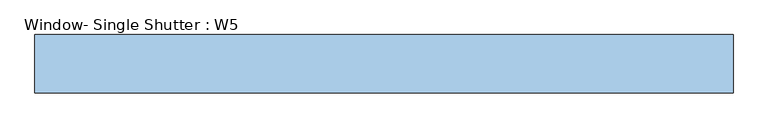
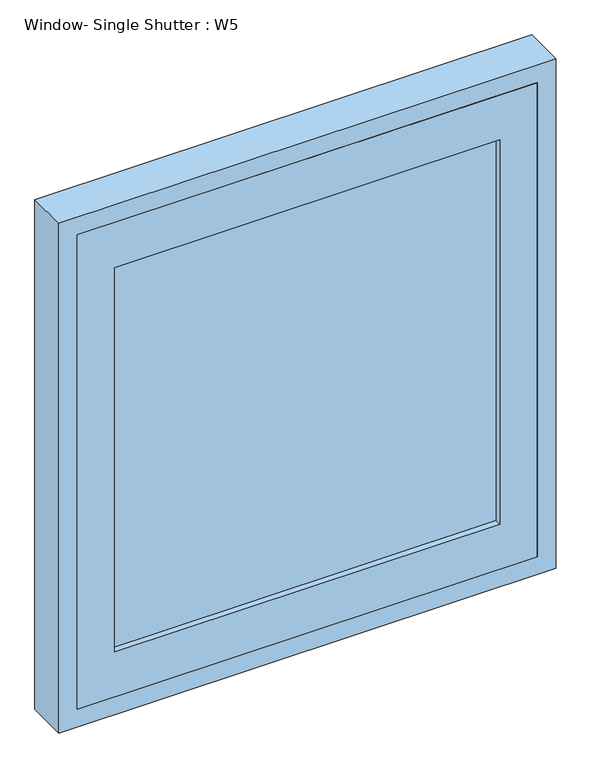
"""IFC4 building model written with IfcOpenShell, lengths in millimetres: window geometry, Window- Single Shutter : W5."""

from ifc_helpers import new_model, si_unit, frame, origin, place, context, project, spatial, polyline, outline, extrude, faceted_brep, source, transform, mapped, element, save


def window_single_shutter_w5_77842b58(model_context):
    return source(origin(), model_context, "Body", "SolidModel", [
        extrude(outline(polyline([(-465.0, -30.5), (465.0, -30.5), (465.0, -34.5), (-465.0, -34.5), (-465.0, -30.5)])), frame((0.0, 0.0, 960.0), z_axis=(0.0, 0.0, 1.0), x_axis=(1.0, 0.0, 0.0)), (0.0, 0.0, 1.0), 980.0),
        extrude(outline(polyline([(845.0, 555.0), (2055.0, 555.0), (2055.0, -555.0), (845.0, -555.0), (845.0, 555.0)]), holes=[polyline([(1940.0, 465.0), (960.0, 465.0), (960.0, -465.0), (1940.0, -465.0), (1940.0, 465.0)])]), frame((0.0, -50.0, 0.0), z_axis=(0.0, 1.0, 0.0), x_axis=(0.0, 0.0, 1.0)), (0.0, 0.0, 1.0), 35.0),
        faceted_brep([(-540.0, -15.0, 2040.0), (-540.0, 50.0, 2040.0), (540.0, 50.0, 2040.0), (540.0, -15.0, 2040.0), (-555.0, -50.0, 2055.0), (-555.0, -15.0, 2055.0), (555.0, -15.0, 2055.0), (555.0, -50.0, 2055.0), (-600.0, 50.0, 2100.0), (-600.0, -50.0, 2100.0), (600.0, -50.0, 2100.0), (600.0, 50.0, 2100.0), (540.0, 50.0, 860.0), (540.0, -15.0, 860.0), (555.0, -15.0, 845.0), (555.0, -50.0, 845.0), (600.0, -50.0, 800.0), (600.0, 50.0, 800.0), (-540.0, 50.0, 860.0), (-540.0, -15.0, 860.0), (-555.0, -15.0, 845.0), (-555.0, -50.0, 845.0), (-600.0, -50.0, 800.0), (-600.0, 50.0, 800.0)], [[[0, 1, 2, 3]], [[4, 5, 6, 7]], [[8, 9, 10, 11]], [[3, 2, 12, 13]], [[7, 6, 14, 15]], [[11, 10, 16, 17]], [[13, 12, 18, 19]], [[15, 14, 20, 21]], [[17, 16, 22, 23]], [[11, 17, 23, 8], [1, 18, 12, 2]], [[19, 18, 1, 0]], [[5, 20, 14, 6], [3, 13, 19, 0]], [[21, 20, 5, 4]], [[9, 22, 16, 10], [7, 15, 21, 4]], [[23, 22, 9, 8]]]),
    ])


if __name__ == "__main__":
    model = new_model("IFC4")
    model_context = context("Model", 3, world=origin())
    ifc_project = project(units=[si_unit("LENGTHUNIT", "METRE", prefix="MILLI")], contexts=[model_context])
    site = spatial("IfcSite", under=ifc_project)
    building = spatial("IfcBuilding", under=site)
    placement = place(None, origin())
    window_single_shutter_w5_shape = window_single_shutter_w5_77842b58(model_context)
    element("IfcWindow", 1, ObjectType="Window- Single Shutter : W5", at=placement, inside=building, context=model_context, shape_type="MappedRepresentation", body=[
        mapped(window_single_shutter_w5_shape, transform((0.0, 0.0, 0.0), x_axis=(1.0, 0.0, 0.0), y_axis=(0.0, 1.0, 0.0), z_axis=(0.0, 0.0, 1.0))),
    ])
    save(model, "model.ifc")
